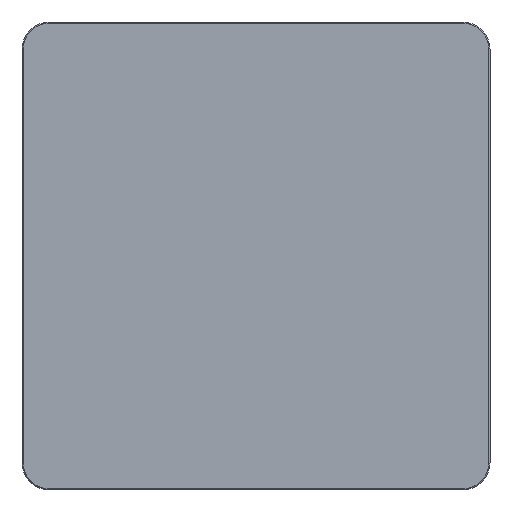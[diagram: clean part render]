
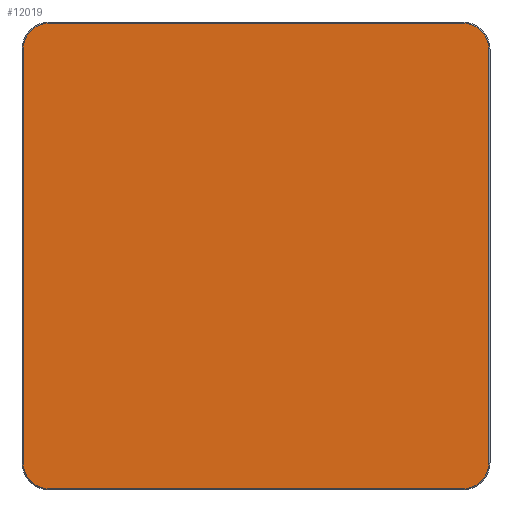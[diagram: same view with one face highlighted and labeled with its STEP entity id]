
A CAD part, top view. The second image highlights one B-rep face of the part: STEP entity #12019.
In plain terms, the highlighted planar face has unit normal (0, 0, 1).
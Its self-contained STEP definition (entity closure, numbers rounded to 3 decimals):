
#11944=CARTESIAN_POINT('',(0.,0.,20.));
#11945=DIRECTION('',(1.,0.,0.));
#11946=DIRECTION('',(0.,0.,1.));
#11947=AXIS2_PLACEMENT_3D('',#11944,#11946,#11945);
#11948=PLANE('',#11947);
#11949=CARTESIAN_POINT('',(-265.,-298.5,20.));
#11950=VERTEX_POINT('',#11949);
#11951=CARTESIAN_POINT('',(265.,-298.5,20.));
#11952=VERTEX_POINT('',#11951);
#11953=CARTESIAN_POINT('',(-265.,-298.5,20.));
#11954=DIRECTION('',(1.,0.,0.));
#11955=VECTOR('',#11954,530.);
#11956=LINE('',#11953,#11955);
#11957=EDGE_CURVE('',#11950,#11952,#11956,.T.);
#11958=ORIENTED_EDGE('E105',*,*,#11957,.T.);
#11959=CARTESIAN_POINT('',(298.5,-265.,20.));
#11960=VERTEX_POINT('',#11959);
#11961=CARTESIAN_POINT('',(265.,-265.,20.));
#11962=DIRECTION('',(0.,-1.,0.));
#11963=DIRECTION('',(0.,-0.,1.));
#11964=AXIS2_PLACEMENT_3D('',#11961,#11963,#11962);
#11965=CIRCLE('',#11964,33.5);
#11966=EDGE_CURVE('',#11952,#11960,#11965,.T.);
#11967=ORIENTED_EDGE('E107',*,*,#11966,.T.);
#11968=CARTESIAN_POINT('',(298.5,265.,20.));
#11969=VERTEX_POINT('',#11968);
#11970=CARTESIAN_POINT('',(298.5,-265.,20.));
#11971=DIRECTION('',(0.,1.,0.));
#11972=VECTOR('',#11971,530.);
#11973=LINE('',#11970,#11972);
#11974=EDGE_CURVE('',#11960,#11969,#11973,.T.);
#11975=ORIENTED_EDGE('E109',*,*,#11974,.T.);
#11976=CARTESIAN_POINT('',(265.,298.5,20.));
#11977=VERTEX_POINT('',#11976);
#11978=CARTESIAN_POINT('',(265.,265.,20.));
#11979=DIRECTION('',(1.,0.,0.));
#11980=DIRECTION('',(0.,0.,1.));
#11981=AXIS2_PLACEMENT_3D('',#11978,#11980,#11979);
#11982=CIRCLE('',#11981,33.5);
#11983=EDGE_CURVE('',#11969,#11977,#11982,.T.);
#11984=ORIENTED_EDGE('E111',*,*,#11983,.T.);
#11985=CARTESIAN_POINT('',(-265.,298.5,20.));
#11986=VERTEX_POINT('',#11985);
#11987=CARTESIAN_POINT('',(265.,298.5,20.));
#11988=DIRECTION('',(-1.,0.,0.));
#11989=VECTOR('',#11988,530.);
#11990=LINE('',#11987,#11989);
#11991=EDGE_CURVE('',#11977,#11986,#11990,.T.);
#11992=ORIENTED_EDGE('E113',*,*,#11991,.T.);
#11993=CARTESIAN_POINT('',(-298.5,265.,20.));
#11994=VERTEX_POINT('',#11993);
#11995=CARTESIAN_POINT('',(-265.,265.,20.));
#11996=DIRECTION('',(0.,1.,0.));
#11997=DIRECTION('',(0.,0.,1.));
#11998=AXIS2_PLACEMENT_3D('',#11995,#11997,#11996);
#11999=CIRCLE('',#11998,33.5);
#12000=EDGE_CURVE('',#11986,#11994,#11999,.T.);
#12001=ORIENTED_EDGE('E115',*,*,#12000,.T.);
#12002=CARTESIAN_POINT('',(-298.5,-265.,20.));
#12003=VERTEX_POINT('',#12002);
#12004=CARTESIAN_POINT('',(-298.5,265.,20.));
#12005=DIRECTION('',(0.,-1.,0.));
#12006=VECTOR('',#12005,530.);
#12007=LINE('',#12004,#12006);
#12008=EDGE_CURVE('',#11994,#12003,#12007,.T.);
#12009=ORIENTED_EDGE('E117',*,*,#12008,.T.);
#12010=CARTESIAN_POINT('',(-265.,-265.,20.));
#12011=DIRECTION('',(-1.,0.,0.));
#12012=DIRECTION('',(0.,0.,1.));
#12013=AXIS2_PLACEMENT_3D('',#12010,#12012,#12011);
#12014=CIRCLE('',#12013,33.5);
#12015=EDGE_CURVE('',#12003,#11950,#12014,.T.);
#12016=ORIENTED_EDGE('E119',*,*,#12015,.T.);
#12017=EDGE_LOOP('',(#11958,#11967,#11975,#11984,#11992,#12001,#12009,#12016));
#12018=FACE_OUTER_BOUND('',#12017,.T.);
#12019=ADVANCED_FACE('F2',(#12018),#11948,.T.);
